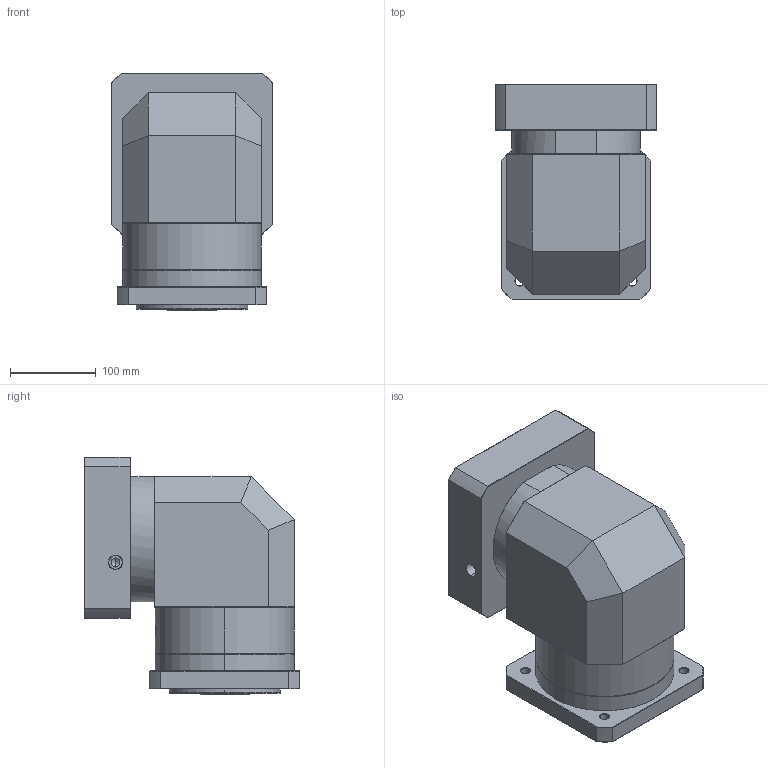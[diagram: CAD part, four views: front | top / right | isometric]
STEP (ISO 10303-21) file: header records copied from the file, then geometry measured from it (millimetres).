
FILE_DESCRIPTION (( 'STEP AP214' ), '1' );
FILE_NAME ('ZFR160A-K35-L1-P2-38-180-215-M12.step', '2023-09-03T09:01:35', ( '' ), ( '' ), 'SwSTEP 2.0', 'SolidWorks 2016', '' );
FILE_SCHEMA (( 'AUTOMOTIVE_DESIGN' ));
Length unit declared in the file: millimetre
Products named in the file (1): ZFR160A-K35-L1-P2-38-180-215-M12
Bounding box: 188 x 251.5 x 277.7 mm (x, y, z)
Volume: 7097567.2 mm3; surface area: 474980.8 mm2
Topology: 6 solids, 6 shells, 2130 faces, 5621 edges, 3598 vertices
Faces by surface type: plane 1039, bspline 403, cylinder 367, cone 301, torus 20
Entity records: 117971 total; most frequent: CARTESIAN_POINT 46949, ORIENTED_EDGE 11186, DIRECTION 8110, EDGE_CURVE 5593, VERTEX_POINT 3598, LINE 3022, VECTOR 3022, AXIS2_PLACEMENT_3D 2544
